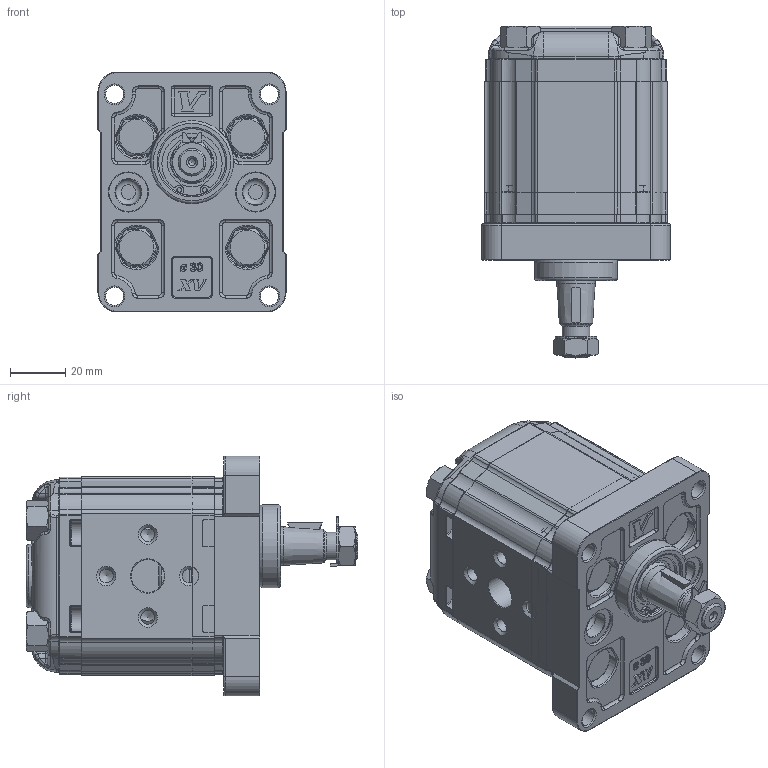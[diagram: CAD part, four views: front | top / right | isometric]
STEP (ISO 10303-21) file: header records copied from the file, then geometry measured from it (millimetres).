
FILE_DESCRIPTION( ( 'Unknown' ), '1' );
FILE_NAME( 'P:/montaggio_easy/output/STP/X1R2107GIIE.stp', 'Unknown', ( 'Unknown' ), ( 'Unknown' ), 'PSStep 14.0', 'Unknown', ' ' );
FILE_SCHEMA( ( 'AUTOMOTIVE_DESIGN { 1 0 10303 214 1 1 1 1 }' ) );
Length unit declared in the file: millimetre
Products named in the file (5): Assem1; X1R07; 1G; X1IIH48; XR113-E
Bounding box: 68 x 120 x 86.7 mm (x, y, z)
Volume: 690766.5 mm3; surface area: 148628.4 mm2
Topology: 8 solids, 10 shells, 2916 faces, 7386 edges, 4584 vertices
Faces by surface type: plane 1026, cylinder 866, torus 426, cone 236, bspline 212, extrusion 134, sphere 16
Full cylindrical faces by diameter (mm): 1.678 x4, 2.5 x2, 3 x10, 5 x16, 6.5 x8, 8 x16, 8.5 x12, 9 x4, 9.3 x4, 10 x4, 10.25 x2, 10.5 x4, 11.445 x4, 12 x12, 13.955 x2, 14 x4, 14.5 x4, 14.923 x2, 17.115 x2, 17.833 x2, 20 x2, 22 x2, 24 x4, 24.2 x2, 25.5 x2, 30 x2
Entity records: 61629 total; most frequent: CARTESIAN_POINT 16229, DIRECTION 7010, ORIENTED_EDGE 6870, EDGE_CURVE 3435, AXIS2_PLACEMENT_3D 2717, VERTEX_POINT 2218, EDGE_LOOP 1755, VECTOR 1576
